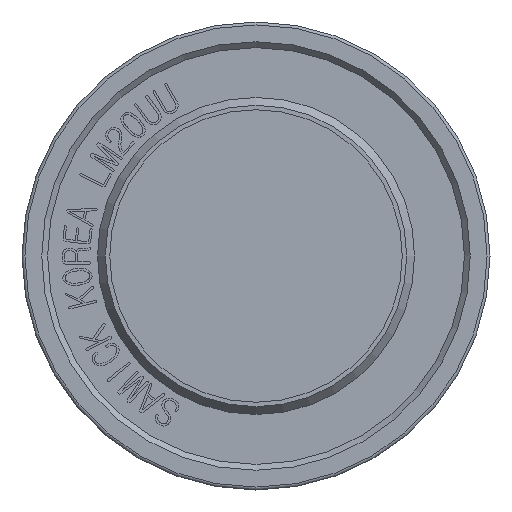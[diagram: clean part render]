
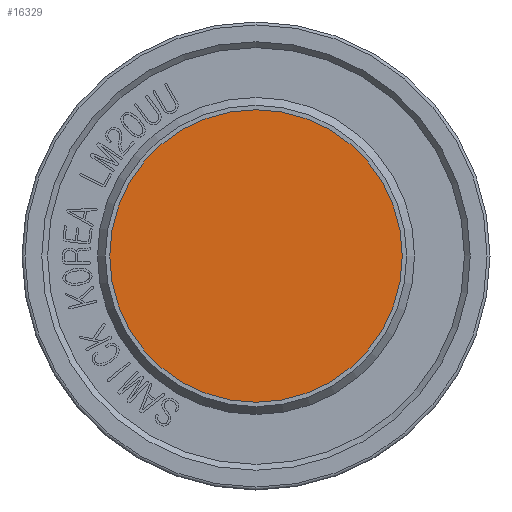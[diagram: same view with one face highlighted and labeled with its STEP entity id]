
A CAD part, front view. The second image highlights one B-rep face of the part: STEP entity #16329.
In plain terms, the highlighted planar face has unit normal (0, -1, 0).
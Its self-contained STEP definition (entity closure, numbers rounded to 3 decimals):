
#41=CIRCLE('',#16602,10.);
#351=PLANE('',#16604);
#1171=FACE_OUTER_BOUND('',#2050,.T.);
#2050=EDGE_LOOP('',(#14010));
#7034=VERTEX_POINT('',#28349);
#9373=EDGE_CURVE('',#7034,#7034,#41,.T.);
#14010=ORIENTED_EDGE('',*,*,#9373,.F.);
#16329=ADVANCED_FACE('',(#1171),#351,.T.);
#16602=AXIS2_PLACEMENT_3D('',#28351,#18231,#18232);
#16604=AXIS2_PLACEMENT_3D('',#28353,#18235,#18236);
#18231=DIRECTION('center_axis',(0.,1.,0.));
#18232=DIRECTION('ref_axis',(1.,0.,0.));
#18235=DIRECTION('center_axis',(0.,-1.,0.));
#18236=DIRECTION('ref_axis',(0.,0.,-1.));
#28349=CARTESIAN_POINT('',(-10.,-65.,0.));
#28351=CARTESIAN_POINT('Origin',(0.,-65.,0.));
#28353=CARTESIAN_POINT('Origin',(0.,-65.,0.));
